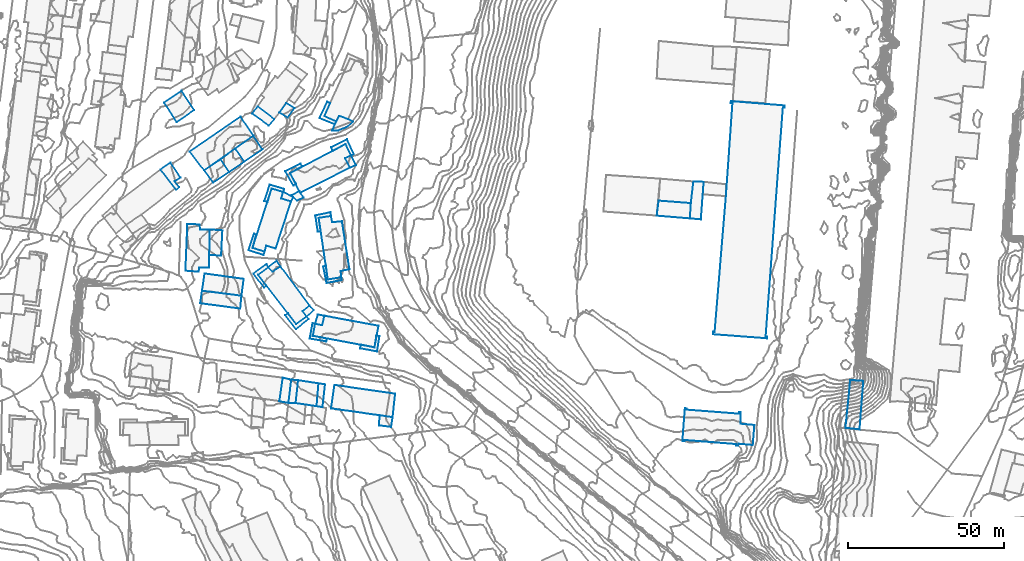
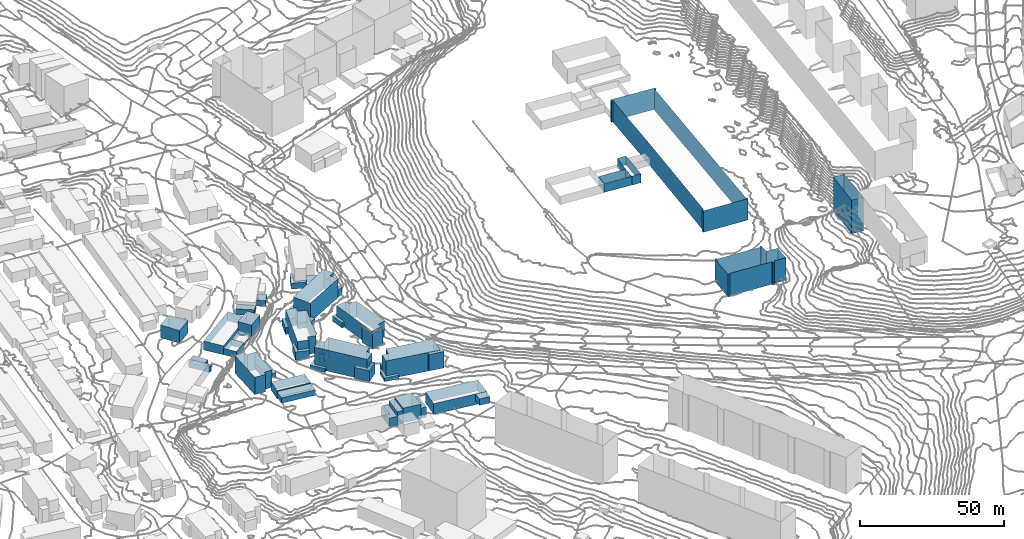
# Not in any storey, part 50 of 419: 46 walls.
"""IFC2X3 model written with IfcOpenShell, lengths in metres."""

from ifc_helpers import new_model, si_unit, frame, origin_with_axes, place, context, subcontext, project, faceted_brep, element, save


model = new_model("IFC2X3")

# Units and contexts
model_context = context("Model", 3, precision=1e-05, world=origin_with_axes())
body_context = subcontext(model_context, "Body", "Model", "MODEL_VIEW")
ifc_project = project(units=[si_unit("AREAUNIT", "SQUARE_METRE"), si_unit("LENGTHUNIT", "METRE")], contexts=[model_context])

# Walls
wall_1_placement = place(None, frame((585.6920204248, 669.3976909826, 49.8970001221), z_axis=(0.0, 0.0, 1.0), x_axis=(1.0, 0.0, 0.0)))
element("IfcWall", 1, at=wall_1_placement, Name="Mur 0", context=body_context, shape_type="Brep", body=[
    faceted_brep([(0.6, 4.0, 2.3029998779), (13.2000000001, 2.4000000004, 2.3029998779), (0.6, 4.0, 0.0), (13.2000000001, 2.4000000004, 0.0), (0.0, 0.0, 2.3029998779), (0.0, 0.0, 0.0), (12.8, -1.7000000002, 2.3029998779), (12.8, -1.7000000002, 0.0)], [[[0, 1, 2]], [[2, 1, 3]], [[4, 0, 5]], [[5, 0, 2]], [[1, 6, 3]], [[3, 6, 7]], [[6, 4, 7]], [[7, 4, 5]]]),
])
wall_2_placement = place(None, frame((613.8920204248, 637.4976909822, 50.0967005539), z_axis=(0.0, 0.0, 1.0), x_axis=(1.0, 0.0, 0.0)))
element("IfcWall", 2, at=wall_2_placement, Name="Mur 0", context=body_context, shape_type="Brep", body=[
    faceted_brep([(0.8999999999, 7.5, 5.6032994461), (3.1, 7.3000000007, 5.6032994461), (0.8999999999, 7.5, 0.0), (3.1, 7.3000000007, 0.0), (0.0, 0.0, 5.6032994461), (0.0, 0.0, 0.0), (2.2999999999, 0.0, 5.6032994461), (2.2999999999, 0.0, 0.0)], [[[0, 1, 2]], [[2, 1, 3]], [[4, 0, 5]], [[5, 0, 2]], [[1, 6, 3]], [[3, 6, 7]], [[6, 4, 7]], [[7, 4, 5]]]),
])
wall_3_placement = place(None, frame((614.4920204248, 710.9976909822, 51.7713991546), z_axis=(0.0, 0.0, 1.0), x_axis=(1.0, 0.0, 0.0)))
element("IfcWall", 3, at=wall_3_placement, Name="Mur 0", context=body_context, shape_type="Brep", body=[
    faceted_brep([(17.5, 4.8000000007, 8.0286008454), (19.1, 1.8000000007, 8.0286008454), (17.5, 4.8000000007, 0.0), (19.1, 1.8000000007, 0.0), (19.4, 5.7000000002, 8.0286008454), (19.4, 5.7000000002, 0.0), (17.7, 9.3000000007, 8.0286008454), (17.7, 9.3000000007, 0.0), (0.0, 0.0, 8.0286008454), (0.0, 0.0, 0.0), (3.2, -6.2999999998, 8.0286008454), (3.2, -6.2999999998, 0.0)], [[[0, 1, 2]], [[2, 1, 3]], [[4, 0, 5]], [[5, 0, 2]], [[6, 4, 7]], [[7, 4, 5]], [[8, 6, 9]], [[9, 6, 7]], [[1, 10, 3]], [[3, 10, 11]], [[10, 8, 11]], [[11, 8, 9]]]),
])
wall_4_placement = place(None, frame((739.7920204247, 625.3976909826, 67.8319976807), z_axis=(0.0, 0.0, 1.0), x_axis=(1.0, 0.0, 0.0)))
element("IfcWall", 4, at=wall_4_placement, Name="Mur 0", context=body_context, shape_type="Brep", body=[
    faceted_brep([(18.6000000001, 9.2000000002, 9.5680023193), (18.6000000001, 8.4000000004, 9.5680023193), (18.6000000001, 9.2000000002, 0.0), (18.6000000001, 8.4000000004, 0.0), (18.1000000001, 9.2000000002, 9.5680023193), (18.1000000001, 9.2000000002, 0.0), (18.1000000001, 8.7000000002, 9.5680023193), (18.1000000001, 8.7000000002, 0.0), (1.4, 10.0, 9.5680023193), (1.4, 10.0, 0.0), (1.4, 10.4000000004, 9.5680023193), (1.4, 10.4000000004, 0.0), (0.8, 10.5, 9.5680023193), (0.8, 10.5, 0.0), (0.0, 0.0, 9.5680023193), (0.0, 0.0, 0.0), (0.7000000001, -0.0999999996, 9.5680023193), (0.7000000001, -0.0999999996, 0.0), (0.7000000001, 0.2999999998, 9.5680023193), (0.7000000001, 0.2999999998, 0.0), (17.2000000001, -1.0, 9.5680023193), (17.2000000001, -1.0, 0.0), (17.2000000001, -1.5, 9.5680023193), (17.2000000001, -1.5, 0.0), (17.8, -1.5, 9.5680023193), (17.8, -1.5, 0.0), (18.0, -0.9000000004, 9.5680023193), (18.0, -0.9000000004, 0.0), (22.5, -1.2999999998, 9.5680023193), (22.5, -1.2999999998, 0.0), (23.0, 5.0999999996, 9.5680023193), (23.0, 5.0999999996, 0.0), (18.6000000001, 5.5, 9.5680023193), (18.6000000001, 5.5, 0.0)], [[[0, 1, 2]], [[2, 1, 3]], [[4, 0, 5]], [[5, 0, 2]], [[6, 4, 7]], [[7, 4, 5]], [[8, 6, 9]], [[9, 6, 7]], [[10, 8, 11]], [[11, 8, 9]], [[12, 10, 13]], [[13, 10, 11]], [[14, 12, 15]], [[15, 12, 13]], [[16, 14, 17]], [[17, 14, 15]], [[18, 16, 19]], [[19, 16, 17]], [[20, 18, 21]], [[21, 18, 19]], [[22, 20, 23]], [[23, 20, 21]], [[24, 22, 25]], [[25, 22, 23]], [[26, 24, 27]], [[27, 24, 25]], [[28, 26, 29]], [[29, 26, 27]], [[30, 28, 31]], [[31, 28, 29]], [[1, 32, 3]], [[3, 32, 33]], [[32, 30, 33]], [[33, 30, 31]]]),
])
wall_5_placement = place(None, frame((602.3920204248, 687.0976909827, 52.1847999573), z_axis=(0.0, 0.0, 1.0), x_axis=(1.0, 0.0, 0.0)))
element("IfcWall", 5, at=wall_5_placement, Name="Mur 0", context=body_context, shape_type="Brep", body=[
    faceted_brep([(9.2, 15.7999999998, 7.4152000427), (12.2999999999, 14.7999999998, 7.4152000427), (9.2, 15.7999999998, 0.0), (12.2999999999, 14.7999999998, 0.0), (9.7999999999, 17.8999999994, 7.4152000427), (9.7999999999, 17.8999999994, 0.0), (6.1, 18.8999999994, 7.4152000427), (6.1, 18.8999999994, 0.0), (0.0, 0.0, 7.4152000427), (0.0, 0.0, 0.0), (3.8999999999, -1.2000000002, 7.4152000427), (3.8999999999, -1.2000000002, 0.0), (4.3999999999, 0.7000000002, 7.4152000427), (4.3999999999, 0.7000000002, 0.0), (7.3999999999, -0.2000000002, 7.4152000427), (7.3999999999, -0.2000000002, 0.0)], [[[0, 1, 2]], [[2, 1, 3]], [[4, 0, 5]], [[5, 0, 2]], [[6, 4, 7]], [[7, 4, 5]], [[8, 6, 9]], [[9, 6, 7]], [[10, 8, 11]], [[11, 8, 9]], [[12, 10, 13]], [[13, 10, 11]], [[1, 14, 3]], [[3, 14, 15]], [[14, 12, 15]], [[15, 12, 13]]]),
])
wall_6_placement = place(None, frame((574.1920204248, 733.5976909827, 42.8875996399), z_axis=(0.0, 0.0, 1.0), x_axis=(1.0, 0.0, 0.0)))
element("IfcWall", 6, at=wall_6_placement, Name="Mur 0", context=body_context, shape_type="Brep", body=[
    faceted_brep([(4.0, -6.2999999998, 5.4124003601), (0.0, 0.0, 5.4124003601), (4.0, -6.2999999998, 0.0), (0.0, 0.0, 0.0), (9.6, -2.4000000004, 5.4124003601), (9.6, -2.4000000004, 0.0), (5.5, 3.7000000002, 5.4124003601), (5.5, 3.7000000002, 0.0)], [[[0, 1, 2]], [[2, 1, 3]], [[4, 0, 5]], [[5, 0, 2]], [[1, 6, 3]], [[3, 6, 7]], [[6, 4, 7]], [[7, 4, 5]]]),
])
wall_7_placement = place(None, frame((742.1920204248, 696.4976909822, 71.3740007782), z_axis=(0.0, 0.0, 1.0), x_axis=(1.0, 0.0, 0.0)))
element("IfcWall", 7, at=wall_7_placement, Name="Mur 0", context=body_context, shape_type="Brep", body=[
    faceted_brep([(0.0, 0.0, 3.8259992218), (0.3, 4.9000000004, 3.8259992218), (0.0, 0.0, 0.0), (0.3, 4.9000000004, 0.0), (3.5, -0.2999999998, 3.8259992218), (3.5, -0.2999999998, 0.0), (4.4, 11.7000000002, 3.8259992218), (4.4, 11.7000000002, 0.0), (1.1, 11.8000000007, 3.8259992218), (1.1, 11.8000000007, 0.0)], [[[0, 1, 2]], [[2, 1, 3]], [[4, 0, 5]], [[5, 0, 2]], [[6, 4, 7]], [[7, 4, 5]], [[1, 8, 3]], [[3, 8, 9]], [[8, 6, 9]], [[9, 6, 7]]]),
])
wall_8_placement = place(None, frame((623.7920204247, 728.5976909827, 49.1729995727), z_axis=(0.0, 0.0, 1.0), x_axis=(1.0, 0.0, 0.0)))
element("IfcWall", 8, at=wall_8_placement, Name="Mur 0", context=body_context, shape_type="Brep", body=[
    faceted_brep([(5.3, -1.1000000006, 2.5270004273), (4.8, -2.0, 2.5270004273), (5.3, -1.1000000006, 0.0), (4.8, -2.0, 0.0), (1.6000000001, 0.5999999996, 2.5270004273), (1.6000000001, 0.5999999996, 0.0), (3.4, 4.7999999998, 2.5270004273), (3.4, 4.7999999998, 0.0), (2.5, 5.2000000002, 2.5270004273), (2.5, 5.2000000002, 0.0), (0.0, 0.0, 2.5270004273), (0.0, 0.0, 0.0)], [[[0, 1, 2]], [[2, 1, 3]], [[4, 0, 5]], [[5, 0, 2]], [[6, 4, 7]], [[7, 4, 5]], [[8, 6, 9]], [[9, 6, 7]], [[1, 10, 3]], [[3, 10, 11]], [[10, 8, 11]], [[11, 8, 9]]]),
])
wall_9_placement = place(None, frame((627.7920204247, 724.5976909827, 49.5610002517), z_axis=(0.0, 0.0, 1.0), x_axis=(1.0, 0.0, 0.0)))
element("IfcWall", 9, at=wall_9_placement, Name="Mur 0", context=body_context, shape_type="Brep", body=[
    faceted_brep([(2.3, 4.7000000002, 2.7389997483), (5.2000000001, 3.5999999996, 2.7389997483), (2.3, 4.7000000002, 0.0), (5.2000000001, 3.5999999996, 0.0), (0.0, 0.0, 2.7389997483), (0.0, 0.0, 0.0), (1.9, 0.0, 2.7389997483), (1.9, 0.0, 0.0), (4.7000000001, 1.0999999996, 2.7389997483), (4.7000000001, 1.0999999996, 0.0), (6.7000000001, 2.7999999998, 2.7389997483), (6.7000000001, 2.7999999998, 0.0)], [[[0, 1, 2]], [[2, 1, 3]], [[4, 0, 5]], [[5, 0, 2]], [[6, 4, 7]], [[7, 4, 5]], [[8, 6, 9]], [[9, 6, 7]], [[1, 10, 3]], [[3, 10, 11]], [[10, 8, 11]], [[11, 8, 9]]]),
])
wall_10_placement = place(None, frame((614.8920204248, 703.8976909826, 52.1322005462), z_axis=(0.0, 0.0, 1.0), x_axis=(1.0, 0.0, 0.0)))
element("IfcWall", 10, at=wall_10_placement, Name="Mur 0", context=body_context, shape_type="Brep", body=[
    faceted_brep([(2.6, 1.4000000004, 1.8677994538), (2.7999999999, 0.7999999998, 1.8677994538), (2.6, 1.4000000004, 0.0), (2.7999999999, 0.7999999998, 0.0), (0.0, 0.0, 1.8677994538), (0.0, 0.0, 0.0), (1.7, -1.7000000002, 1.8677994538), (1.7, -1.7000000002, 0.0), (3.8999999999, -0.7000000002, 1.8677994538), (3.8999999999, -0.7000000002, 0.0)], [[[0, 1, 2]], [[2, 1, 3]], [[4, 0, 5]], [[5, 0, 2]], [[6, 4, 7]], [[7, 4, 5]], [[1, 8, 3]], [[3, 8, 9]], [[8, 6, 9]], [[9, 6, 7]]]),
])
wall_11_placement = place(None, frame((622.4920204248, 697.4976909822, 54.8317015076), z_axis=(0.0, 0.0, 1.0), x_axis=(1.0, 0.0, 0.0)))
element("IfcWall", 11, at=wall_11_placement, Name="Mur 0", context=body_context, shape_type="Brep", body=[
    faceted_brep([(4.9, 1.0, 2.3682984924), (5.0, -0.1999999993, 2.3682984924), (4.9, 1.0, 0.0), (5.0, -0.1999999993, 0.0), (0.0, 0.0, 2.3682984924), (0.0, 0.0, 0.0), (0.7999999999, -5.1999999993, 2.3682984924), (0.7999999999, -5.1999999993, 0.0), (1.7, -5.0999999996, 2.3682984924), (1.7, -5.0999999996, 0.0), (1.1, -0.7999999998, 2.3682984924), (1.1, -0.7999999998, 0.0)], [[[0, 1, 2]], [[2, 1, 3]], [[4, 0, 5]], [[5, 0, 2]], [[6, 4, 7]], [[7, 4, 5]], [[8, 6, 9]], [[9, 6, 7]], [[1, 10, 3]], [[3, 10, 11]], [[10, 8, 11]], [[11, 8, 9]]]),
])
wall_12_placement = place(None, frame((618.4920204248, 666.8976909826, 53.4909012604), z_axis=(0.0, 0.0, 1.0), x_axis=(1.0, 0.0, 0.0)))
element("IfcWall", 12, at=wall_12_placement, Name="Mur 0", context=body_context, shape_type="Brep", body=[
    faceted_brep([(0.0, 0.0, 2.5090987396), (2.2, 1.7999999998, 2.5090987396), (0.0, 0.0, 0.0), (2.2, 1.7999999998, 0.0), (1.2, -1.7000000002, 2.5090987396), (1.2, -1.7000000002, 0.0), (3.5, 0.2999999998, 2.5090987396), (3.5, 0.2999999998, 0.0)], [[[0, 1, 2]], [[2, 1, 3]], [[4, 0, 5]], [[5, 0, 2]], [[1, 6, 3]], [[3, 6, 7]], [[6, 4, 7]], [[7, 4, 5]]]),
])
wall_13_placement = place(None, frame((620.6920204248, 658.0976909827, 53.6420013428), z_axis=(0.0, 0.0, 1.0), x_axis=(1.0, 0.0, 0.0)))
element("IfcWall", 13, at=wall_13_placement, Name="Mur 0", context=body_context, shape_type="Brep", body=[
    faceted_brep([(0.9, 4.8999999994, 1.5579986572), (1.7000000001, 4.7000000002, 1.5579986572), (0.9, 4.8999999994, 0.0), (1.7000000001, 4.7000000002, 0.0), (0.0, 0.0, 1.5579986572), (0.0, 0.0, 0.0), (5.3, -0.9000000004, 1.5579986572), (5.3, -0.9000000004, 0.0), (5.5, 0.0, 1.5579986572), (5.5, 0.0, 0.0), (1.0, 0.8999999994, 1.5579986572), (1.0, 0.8999999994, 0.0)], [[[0, 1, 2]], [[2, 1, 3]], [[4, 0, 5]], [[5, 0, 2]], [[6, 4, 7]], [[7, 4, 5]], [[8, 6, 9]], [[9, 6, 7]], [[1, 10, 3]], [[3, 10, 11]], [[10, 8, 11]], [[11, 8, 9]]]),
])
wall_14_placement = place(None, frame((602.6920204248, 678.8976909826, 52.7784986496), z_axis=(0.0, 0.0, 1.0), x_axis=(1.0, 0.0, 0.0)))
element("IfcWall", 14, at=wall_14_placement, Name="Mur 0", context=body_context, shape_type="Brep", body=[
    faceted_brep([(4.2000000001, 3.0999999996, 1.7215013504), (4.8, 2.0999999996, 1.7215013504), (4.2000000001, 3.0999999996, 0.0), (4.8, 2.0999999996, 0.0), (0.0, 0.0, 1.7215013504), (0.0, 0.0, 0.0), (3.5, -4.5, 1.7215013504), (3.5, -4.5, 0.0), (4.1, -3.9000000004, 1.7215013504), (4.1, -3.9000000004, 0.0), (1.5, -0.4000000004, 1.7215013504), (1.5, -0.4000000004, 0.0)], [[[0, 1, 2]], [[2, 1, 3]], [[4, 0, 5]], [[5, 0, 2]], [[6, 4, 7]], [[7, 4, 5]], [[8, 6, 9]], [[9, 6, 7]], [[1, 10, 3]], [[3, 10, 11]], [[10, 8, 11]], [[11, 8, 9]]]),
])
wall_15_placement = place(None, frame((622.8920204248, 636.4976909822, 50.4553011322), z_axis=(0.0, 0.0, 1.0), x_axis=(1.0, 0.0, 0.0)))
element("IfcWall", 15, at=wall_15_placement, Name="Mur 0", context=body_context, shape_type="Brep", body=[
    faceted_brep([(0.0, 0.0, 4.3446988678), (0.6, 7.3000000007, 4.3446988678), (0.0, 0.0, 0.0), (0.6, 7.3000000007, 0.0), (1.8999999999, -0.2999999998, 4.3446988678), (1.8999999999, -0.2999999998, 0.0), (2.7, 7.0, 4.3446988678), (2.7, 7.0, 0.0)], [[[0, 1, 2]], [[2, 1, 3]], [[4, 0, 5]], [[5, 0, 2]], [[1, 6, 3]], [[3, 6, 7]], [[6, 4, 7]], [[7, 4, 5]]]),
])
wall_16_placement = place(None, frame((610.9920204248, 638.0976909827, 50.037399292), z_axis=(0.0, 0.0, 1.0), x_axis=(1.0, 0.0, 0.0)))
element("IfcWall", 16, at=wall_16_placement, Name="Mur 0", context=body_context, shape_type="Brep", body=[
    faceted_brep([(1.1, 7.5, 3.762600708), (3.7999999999, 6.8999999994, 3.762600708), (1.1, 7.5, 0.0), (3.7999999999, 6.8999999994, 0.0), (0.0, 0.0, 3.762600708), (0.0, 0.0, 0.0), (2.9, -0.6000000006, 3.762600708), (2.9, -0.6000000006, 0.0)], [[[0, 1, 2]], [[2, 1, 3]], [[4, 0, 5]], [[5, 0, 2]], [[1, 6, 3]], [[3, 6, 7]], [[6, 4, 7]], [[7, 4, 5]]]),
])
wall_17_placement = place(None, frame((588.5920204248, 684.8976909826, 49.6700000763), z_axis=(0.0, 0.0, 1.0), x_axis=(1.0, 0.0, 0.0)))
element("IfcWall", 17, at=wall_17_placement, Name="Mur 0", context=body_context, shape_type="Brep", body=[
    faceted_brep([(0.0, 0.0, 1.8299999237), (0.2, 8.0999999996, 1.8299999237), (0.0, 0.0, 0.0), (0.2, 8.0999999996, 0.0), (3.8, -0.2999999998, 1.8299999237), (3.8, -0.2999999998, 0.0), (4.2, 7.7999999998, 1.8299999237), (4.2, 7.7999999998, 0.0)], [[[0, 1, 2]], [[2, 1, 3]], [[4, 0, 5]], [[5, 0, 2]], [[1, 6, 3]], [[3, 6, 7]], [[6, 4, 7]], [[7, 4, 5]]]),
])
wall_18_placement = place(None, frame((586.9920204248, 711.8976909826, 44.2959999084), z_axis=(0.0, 0.0, 1.0), x_axis=(1.0, 0.0, 0.0)))
element("IfcWall", 18, at=wall_18_placement, Name="Mur 0", context=body_context, shape_type="Brep", body=[
    faceted_brep([(2.9, -3.9000000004, 2.7040000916), (0.0, 0.0, 2.7040000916), (2.9, -3.9000000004, 0.0), (0.0, 0.0, 0.0), (8.0, -0.5, 2.7040000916), (8.0, -0.5, 0.0), (5.2, 3.5, 2.7040000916), (5.2, 3.5, 0.0)], [[[0, 1, 2]], [[2, 1, 3]], [[4, 0, 5]], [[5, 0, 2]], [[1, 6, 3]], [[3, 6, 7]], [[6, 4, 7]], [[7, 4, 5]]]),
])
wall_19_placement = place(None, frame((604.1920204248, 678.4976909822, 52.8710006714), z_axis=(0.0, 0.0, 1.0), x_axis=(1.0, 0.0, 0.0)))
element("IfcWall", 19, at=wall_19_placement, Name="Mur 0", context=body_context, shape_type="Brep", body=[
    faceted_brep([(4.6, 1.0, 8.9289993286), (7.2000000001, 2.7000000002, 8.9289993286), (4.6, 1.0, 0.0), (7.2000000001, 2.7000000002, 0.0), (3.3, 2.5, 8.9289993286), (3.3, 2.5, 0.0), (0.0, 0.0, 8.9289993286), (0.0, 0.0, 0.0), (12.2000000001, -15.6999999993, 8.9289993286), (12.2000000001, -15.6999999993, 0.0), (15.5, -13.2999999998, 8.9289993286), (15.5, -13.2999999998, 0.0), (14.3, -11.5999999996, 8.9289993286), (14.3, -11.5999999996, 0.0), (16.5, -9.7999999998, 8.9289993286), (16.5, -9.7999999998, 0.0)], [[[0, 1, 2]], [[2, 1, 3]], [[4, 0, 5]], [[5, 0, 2]], [[6, 4, 7]], [[7, 4, 5]], [[8, 6, 9]], [[9, 6, 7]], [[10, 8, 11]], [[11, 8, 9]], [[12, 10, 13]], [[13, 10, 11]], [[1, 14, 3]], [[3, 14, 15]], [[14, 12, 15]], [[15, 12, 13]]]),
])
wall_20_placement = place(None, frame((631.9920204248, 715.7976909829, 51.9300001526), z_axis=(0.0, 0.0, 1.0), x_axis=(1.0, 0.0, 0.0)))
element("IfcWall", 20, at=wall_20_placement, Name="Mur 0", context=body_context, shape_type="Brep", body=[
    faceted_brep([(3.5, -2.2000000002, 3.0699998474), (1.6, -3.0, 3.0699998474), (3.5, -2.2000000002, 0.0), (1.6, -3.0, 0.0), (1.9, 0.8999999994, 3.0699998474), (1.9, 0.8999999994, 0.0), (0.0, 0.0, 3.0699998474), (0.0, 0.0, 0.0)], [[[0, 1, 2]], [[2, 1, 3]], [[4, 0, 5]], [[5, 0, 2]], [[1, 6, 3]], [[3, 6, 7]], [[6, 4, 7]], [[7, 4, 5]]]),
])
wall_21_placement = place(None, frame((612.8920204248, 711.5976909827, 51.8900004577), z_axis=(0.0, 0.0, 1.0), x_axis=(1.0, 0.0, 0.0)))
element("IfcWall", 21, at=wall_21_placement, Name="Mur 0", context=body_context, shape_type="Brep", body=[
    faceted_brep([(1.6, -0.6000000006, 2.8099995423), (3.3999999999, -4.0, 2.8099995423), (1.6, -0.6000000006, 0.0), (3.3999999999, -4.0, 0.0), (5.2999999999, 1.5999999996, 2.8099995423), (5.2999999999, 1.5999999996, 0.0), (4.8999999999, 2.5, 2.8099995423), (4.8999999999, 2.5, 0.0), (0.0, 0.0, 2.8099995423), (0.0, 0.0, 0.0), (2.6, -4.6000000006, 2.8099995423), (2.6, -4.6000000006, 0.0)], [[[0, 1, 2]], [[2, 1, 3]], [[4, 0, 5]], [[5, 0, 2]], [[6, 4, 7]], [[7, 4, 5]], [[8, 6, 9]], [[9, 6, 7]], [[1, 10, 3]], [[3, 10, 11]], [[10, 8, 11]], [[11, 8, 9]]]),
])
wall_22_placement = place(None, frame((602.2920204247, 729.9976909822, 45.0800004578), z_axis=(0.0, 0.0, 1.0), x_axis=(1.0, 0.0, 0.0)))
element("IfcWall", 22, at=wall_22_placement, Name="Mur 0", context=body_context, shape_type="Brep", body=[
    faceted_brep([(1.7000000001, 2.3000000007, 2.4199995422), (7.1000000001, -1.7999999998, 2.4199995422), (1.7000000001, 2.3000000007, 0.0), (7.1000000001, -1.7999999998, 0.0), (0.0, 0.0, 2.4199995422), (0.0, 0.0, 0.0), (5.3, -3.7999999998, 2.4199995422), (5.3, -3.7999999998, 0.0)], [[[0, 1, 2]], [[2, 1, 3]], [[4, 0, 5]], [[5, 0, 2]], [[1, 6, 3]], [[3, 6, 7]], [[6, 4, 7]], [[7, 4, 5]]]),
])
wall_23_placement = place(None, frame((610.9920204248, 730.3976909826, 45.3399993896), z_axis=(0.0, 0.0, 1.0), x_axis=(1.0, 0.0, 0.0)))
element("IfcWall", 23, at=wall_23_placement, Name="Mur 0", context=body_context, shape_type="Brep", body=[
    faceted_brep([(2.6, -1.7000000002, 2.5600006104), (0.0, 0.0, 2.5600006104), (2.6, -1.7000000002, 0.0), (0.0, 0.0, 0.0), (4.7999999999, 1.2999999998, 2.5600006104), (4.7999999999, 1.2999999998, 0.0), (2.2, 3.0, 2.5600006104), (2.2, 3.0, 0.0)], [[[0, 1, 2]], [[2, 1, 3]], [[4, 0, 5]], [[5, 0, 2]], [[1, 6, 3]], [[3, 6, 7]], [[6, 4, 7]], [[7, 4, 5]]]),
])
wall_24_placement = place(None, frame((607.4920204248, 680.9976909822, 52.9106004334), z_axis=(0.0, 0.0, 1.0), x_axis=(1.0, 0.0, 0.0)))
element("IfcWall", 24, at=wall_24_placement, Name="Mur 0", context=body_context, shape_type="Brep", body=[
    faceted_brep([(2.6, 2.0, 3.5893995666), (3.9, 0.2000000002, 3.5893995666), (2.6, 2.0, 0.0), (3.9, 0.2000000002, 0.0), (0.0, 0.0, 3.5893995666), (0.0, 0.0, 0.0), (1.2999999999, -1.5, 3.5893995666), (1.2999999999, -1.5, 0.0)], [[[0, 1, 2]], [[2, 1, 3]], [[4, 0, 5]], [[5, 0, 2]], [[1, 6, 3]], [[3, 6, 7]], [[6, 4, 7]], [[7, 4, 5]]]),
])
wall_25_placement = place(None, frame((642.7920204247, 630.3976909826, 52.6359992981), z_axis=(0.0, 0.0, 1.0), x_axis=(1.0, 0.0, 0.0)))
element("IfcWall", 25, at=wall_25_placement, Name="Mur 0", context=body_context, shape_type="Brep", body=[
    faceted_brep([(0.0, 0.0, 2.7640007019), (0.3, 3.2000000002, 2.7640007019), (0.0, 0.0, 0.0), (0.3, 3.2000000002, 0.0), (3.9, -0.5, 2.7640007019), (3.9, -0.5, 0.0), (4.4, 2.5999999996, 2.7640007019), (4.4, 2.5999999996, 0.0)], [[[0, 1, 2]], [[2, 1, 3]], [[4, 0, 5]], [[5, 0, 2]], [[1, 6, 3]], [[3, 6, 7]], [[6, 4, 7]], [[7, 4, 5]]]),
])
wall_26_placement = place(None, frame((611.5920204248, 702.8976909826, 52.1847999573), z_axis=(0.0, 0.0, 1.0), x_axis=(1.0, 0.0, 0.0)))
element("IfcWall", 26, at=wall_26_placement, Name="Mur 0", context=body_context, shape_type="Brep", body=[
    faceted_brep([(0.0, 0.0, 2.3152000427), (0.6, 2.0999999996, 2.3152000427), (0.0, 0.0, 0.0), (0.6, 2.0999999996, 0.0), (3.1, -1.0, 2.3152000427), (3.1, -1.0, 0.0), (3.8, 0.4000000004, 2.3152000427), (3.8, 0.4000000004, 0.0)], [[[0, 1, 2]], [[2, 1, 3]], [[4, 0, 5]], [[5, 0, 2]], [[1, 6, 3]], [[3, 6, 7]], [[6, 4, 7]], [[7, 4, 5]]]),
])
wall_27_placement = place(None, frame((612.8920204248, 665.5976909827, 53.2759997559), z_axis=(0.0, 0.0, 1.0), x_axis=(1.0, 0.0, 0.0)))
element("IfcWall", 27, at=wall_27_placement, Name="Mur 0", context=body_context, shape_type="Brep", body=[
    faceted_brep([(3.5, -2.7999999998, 4.7240002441), (6.7999999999, -0.4000000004, 4.7240002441), (3.5, -2.7999999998, 0.0), (6.7999999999, -0.4000000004, 0.0), (0.8999999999, 0.5999999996, 4.7240002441), (0.8999999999, 0.5999999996, 0.0), (0.0, 0.0, 4.7240002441), (0.0, 0.0, 0.0), (3.3999999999, -4.4000000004, 4.7240002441), (3.3999999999, -4.4000000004, 0.0), (7.5, -1.2000000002, 4.7240002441), (7.5, -1.2000000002, 0.0)], [[[0, 1, 2]], [[2, 1, 3]], [[4, 0, 5]], [[5, 0, 2]], [[6, 4, 7]], [[7, 4, 5]], [[8, 6, 9]], [[9, 6, 7]], [[1, 10, 3]], [[3, 10, 11]], [[10, 8, 11]], [[11, 8, 9]]]),
])
wall_28_placement = place(None, frame((627.5920204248, 719.2976909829, 51.6060012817), z_axis=(0.0, 0.0, 1.0), x_axis=(1.0, 0.0, 0.0)))
element("IfcWall", 28, at=wall_28_placement, Name="Mur 0", context=body_context, shape_type="Brep", body=[
    faceted_brep([(7.2, -2.2000000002, 4.3939987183), (6.3, -2.6000000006, 4.3939987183), (7.2, -2.2000000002, 0.0), (6.3, -2.6000000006, 0.0), (5.0, 2.5, 4.3939987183), (5.0, 2.5, 0.0), (0.0, 0.0, 4.3939987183), (0.0, 0.0, 0.0), (0.4, -1.2000000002, 4.3939987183), (0.4, -1.2000000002, 0.0), (4.6, 1.0, 4.3939987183), (4.6, 1.0, 0.0)], [[[0, 1, 2]], [[2, 1, 3]], [[4, 0, 5]], [[5, 0, 2]], [[6, 4, 7]], [[7, 4, 5]], [[8, 6, 9]], [[9, 6, 7]], [[1, 10, 3]], [[3, 10, 11]], [[10, 8, 11]], [[11, 8, 9]]]),
])
wall_29_placement = place(None, frame((636.7920204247, 654.9976909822, 54.5095999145), z_axis=(0.0, 0.0, 1.0), x_axis=(1.0, 0.0, 0.0)))
element("IfcWall", 29, at=wall_29_placement, Name="Mur 0", context=body_context, shape_type="Brep", body=[
    faceted_brep([(4.6000000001, 0.3000000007, 6.9904000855), (5.2000000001, 4.1000000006, 6.9904000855), (4.6000000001, 0.3000000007, 0.0), (5.2000000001, 4.1000000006, 0.0), (0.2000000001, 1.2000000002, 6.9904000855), (0.2000000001, 1.2000000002, 0.0), (0.0, 0.0, 6.9904000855), (0.0, 0.0, 0.0), (5.4, -1.0, 6.9904000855), (5.4, -1.0, 0.0), (6.2000000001, 3.9000000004, 6.9904000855), (6.2000000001, 3.9000000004, 0.0)], [[[0, 1, 2]], [[2, 1, 3]], [[4, 0, 5]], [[5, 0, 2]], [[6, 4, 7]], [[7, 4, 5]], [[8, 6, 9]], [[9, 6, 7]], [[1, 10, 3]], [[3, 10, 11]], [[10, 8, 11]], [[11, 8, 9]]]),
])
wall_30_placement = place(None, frame((624.9920204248, 681.1976909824, 54.9600000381), z_axis=(0.0, 0.0, 1.0), x_axis=(1.0, 0.0, 0.0)))
element("IfcWall", 30, at=wall_30_placement, Name="Mur 0", context=body_context, shape_type="Brep", body=[
    faceted_brep([(1.5, -4.2000000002, 6.3399999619), (5.7999999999, -3.5, 6.3399999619), (1.5, -4.2000000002, 0.0), (5.7999999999, -3.5, 0.0), (0.9, 0.2000000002, 6.3399999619), (0.9, 0.2000000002, 0.0), (0.0, 0.0, 6.3399999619), (0.0, 0.0, 0.0), (1.1, -5.2999999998, 6.3399999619), (1.1, -5.2999999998, 0.0), (5.9, -4.3999999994, 6.3399999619), (5.9, -4.3999999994, 0.0)], [[[0, 1, 2]], [[2, 1, 3]], [[4, 0, 5]], [[5, 0, 2]], [[6, 4, 7]], [[7, 4, 5]], [[8, 6, 9]], [[9, 6, 7]], [[1, 10, 3]], [[3, 10, 11]], [[10, 8, 11]], [[11, 8, 9]]]),
])
wall_31_placement = place(None, frame((596.8920204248, 718.8976909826, 45.3800012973), z_axis=(0.0, 0.0, 1.0), x_axis=(1.0, 0.0, 0.0)))
element("IfcWall", 31, at=wall_31_placement, Name="Mur 0", context=body_context, shape_type="Brep", body=[
    faceted_brep([(0.0, 0.0, 5.3199987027), (5.7999999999, 4.0999999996, 5.3199987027), (0.0, 0.0, 0.0), (5.7999999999, 4.0999999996, 0.0), (2.8999999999, -4.2000000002, 5.3199987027), (2.8999999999, -4.2000000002, 0.0), (8.7, -0.2999999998, 5.3199987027), (8.7, -0.2999999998, 0.0)], [[[0, 1, 2]], [[2, 1, 3]], [[4, 0, 5]], [[5, 0, 2]], [[1, 6, 3]], [[3, 6, 7]], [[6, 4, 7]], [[7, 4, 5]]]),
])
wall_32_placement = place(None, frame((592.1920204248, 715.3976909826, 45.7799995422), z_axis=(0.0, 0.0, 1.0), x_axis=(1.0, 0.0, 0.0)))
element("IfcWall", 32, at=wall_32_placement, Name="Mur 0", context=body_context, shape_type="Brep", body=[
    faceted_brep([(7.6, -0.7000000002, 1.0200004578), (2.8, -4.0, 1.0200004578), (7.6, -0.7000000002, 0.0), (2.8, -4.0, 0.0), (4.7000000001, 3.5, 1.0200004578), (4.7000000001, 3.5, 0.0), (0.0, 0.0, 1.0200004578), (0.0, 0.0, 0.0)], [[[0, 1, 2]], [[2, 1, 3]], [[4, 0, 5]], [[5, 0, 2]], [[1, 6, 3]], [[3, 6, 7]], [[6, 4, 7]], [[7, 4, 5]]]),
])
wall_33_placement = place(None, frame((791.8920204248, 629.5976909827, 73.85), z_axis=(0.0, 0.0, 1.0), x_axis=(1.0, 0.0, 0.0)))
element("IfcWall", 33, at=wall_33_placement, Name="Mur 0", context=body_context, shape_type="Brep", body=[
    faceted_brep([(0.0, 0.0, 14.35), (1.2999999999, 12.8999999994, 14.35), (0.0, 0.0, 0.0), (1.2999999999, 12.8999999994, 0.0), (4.5, -0.5, 14.35), (4.5, -0.5, 0.0), (5.7, 15.0, 14.35), (5.7, 15.0, 0.0), (1.5, 15.2999999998, 14.35), (1.5, 15.2999999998, 0.0)], [[[0, 1, 2]], [[2, 1, 3]], [[4, 0, 5]], [[5, 0, 2]], [[6, 4, 7]], [[7, 4, 5]], [[1, 8, 3]], [[3, 8, 9]], [[8, 6, 9]], [[9, 6, 7]]]),
])
wall_34_placement = place(None, frame((749.5920204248, 659.4976909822, 71.1811993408), z_axis=(0.0, 0.0, 1.0), x_axis=(1.0, 0.0, 0.0)))
element("IfcWall", 34, at=wall_34_placement, Name="Mur 0", context=body_context, shape_type="Brep", body=[
    faceted_brep([(0.5, 0.7000000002, 9.1188006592), (4.1, 44.1000000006, 9.1188006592), (0.5, 0.7000000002, 0.0), (4.1, 44.1000000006, 0.0), (0.0, 0.8000000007, 9.1188006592), (0.0, 0.8000000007, 0.0), (0.0, 0.0, 9.1188006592), (0.0, 0.0, 0.0), (17.2, -1.2999999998, 9.1188006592), (17.2, -1.2999999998, 0.0), (17.3, -0.6999999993, 9.1188006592), (17.3, -0.6999999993, 0.0), (16.8, -0.6999999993, 9.1188006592), (16.8, -0.6999999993, 0.0), (22.3, 72.5, 9.1188006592), (22.3, 72.5, 0.0), (22.8, 72.5, 9.1188006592), (22.8, 72.5, 0.0), (22.8, 73.1000000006, 9.1188006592), (22.8, 73.1000000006, 0.0), (5.7, 74.5, 9.1188006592), (5.7, 74.5, 0.0), (5.6, 73.8000000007, 9.1188006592), (5.6, 73.8000000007, 0.0), (6.2, 73.8000000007, 9.1188006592), (6.2, 73.8000000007, 0.0)], [[[0, 1, 2]], [[2, 1, 3]], [[4, 0, 5]], [[5, 0, 2]], [[6, 4, 7]], [[7, 4, 5]], [[8, 6, 9]], [[9, 6, 7]], [[10, 8, 11]], [[11, 8, 9]], [[12, 10, 13]], [[13, 10, 11]], [[14, 12, 15]], [[15, 12, 13]], [[16, 14, 17]], [[17, 14, 15]], [[18, 16, 19]], [[19, 16, 17]], [[20, 18, 21]], [[21, 18, 19]], [[22, 20, 23]], [[23, 20, 21]], [[1, 24, 3]], [[3, 24, 25]], [[24, 22, 25]], [[25, 22, 23]]]),
])
wall_35_placement = place(None, frame((601.0920204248, 686.3976909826, 52.5969993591), z_axis=(0.0, 0.0, 1.0), x_axis=(1.0, 0.0, 0.0)))
element("IfcWall", 35, at=wall_35_placement, Name="Mur 0", context=body_context, shape_type="Brep", body=[
    faceted_brep([(1.3, 0.7000000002, 3.4030006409), (5.2, -0.5, 3.4030006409), (1.3, 0.7000000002, 0.0), (5.2, -0.5, 0.0), (2.5, 4.9000000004, 3.4030006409), (2.5, 4.9000000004, 0.0), (1.8, 5.2000000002, 3.4030006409), (1.8, 5.2000000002, 0.0), (0.0, 0.0, 3.4030006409), (0.0, 0.0, 0.0), (4.8, -1.5999999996, 3.4030006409), (4.8, -1.5999999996, 0.0)], [[[0, 1, 2]], [[2, 1, 3]], [[4, 0, 5]], [[5, 0, 2]], [[6, 4, 7]], [[7, 4, 5]], [[8, 6, 9]], [[9, 6, 7]], [[1, 10, 3]], [[3, 10, 11]], [[10, 8, 11]], [[11, 8, 9]]]),
])
wall_36_placement = place(None, frame((606.1920204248, 702.0976909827, 52.1450004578), z_axis=(0.0, 0.0, 1.0), x_axis=(1.0, 0.0, 0.0)))
element("IfcWall", 36, at=wall_36_placement, Name="Mur 0", context=body_context, shape_type="Brep", body=[
    faceted_brep([(6.4, 3.7999999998, 3.0549995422), (6.0, 2.8999999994, 3.0549995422), (6.4, 3.7999999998, 0.0), (6.0, 2.8999999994, 0.0), (1.7000000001, 5.2000000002, 3.0549995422), (1.7000000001, 5.2000000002, 0.0), (0.0, 0.0, 3.0549995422), (0.0, 0.0, 0.0), (1.0, -0.2999999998, 3.0549995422), (1.0, -0.2999999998, 0.0), (2.3, 3.8999999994, 3.0549995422), (2.3, 3.8999999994, 0.0)], [[[0, 1, 2]], [[2, 1, 3]], [[4, 0, 5]], [[5, 0, 2]], [[6, 4, 7]], [[7, 4, 5]], [[8, 6, 9]], [[9, 6, 7]], [[1, 10, 3]], [[3, 10, 11]], [[10, 8, 11]], [[11, 8, 9]]]),
])
wall_37_placement = place(None, frame((621.6920204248, 658.9976909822, 53.6719985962), z_axis=(0.0, 0.0, 1.0), x_axis=(1.0, 0.0, 0.0)))
element("IfcWall", 37, at=wall_37_placement, Name="Mur 0", context=body_context, shape_type="Brep", body=[
    faceted_brep([(3.0, 3.4000000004, 7.9280014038), (3.7000000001, 6.4000000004, 7.9280014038), (3.0, 3.4000000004, 0.0), (3.7000000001, 6.4000000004, 0.0), (0.7000000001, 3.8000000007, 7.9280014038), (0.7000000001, 3.8000000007, 0.0), (0.0, 0.0, 7.9280014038), (0.0, 0.0, 0.0), (19.7000000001, -3.6999999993, 7.9280014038), (19.7000000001, -3.6999999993, 0.0), (21.0, 3.2000000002, 7.9280014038), (21.0, 3.2000000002, 0.0)], [[[0, 1, 2]], [[2, 1, 3]], [[4, 0, 5]], [[5, 0, 2]], [[6, 4, 7]], [[7, 4, 5]], [[8, 6, 9]], [[9, 6, 7]], [[1, 10, 3]], [[3, 10, 11]], [[10, 8, 11]], [[11, 8, 9]]]),
])
wall_38_placement = place(None, frame((623.5920204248, 696.6976909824, 54.8609992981), z_axis=(0.0, 0.0, 1.0), x_axis=(1.0, 0.0, 0.0)))
element("IfcWall", 38, at=wall_38_placement, Name="Mur 0", context=body_context, shape_type="Brep", body=[
    faceted_brep([(7.0, -17.0, 6.7390007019), (7.2, -19.0, 6.7390007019), (7.0, -17.0, 0.0), (7.2, -19.0, 0.0), (9.8, -16.3999999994, 6.7390007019), (9.8, -16.3999999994, 0.0), (7.4, -1.0999999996, 6.7390007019), (7.4, -1.0999999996, 0.0), (4.3, -1.3999999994, 6.7390007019), (4.3, -1.3999999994, 0.0), (3.9, 0.6000000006, 6.7390007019), (3.9, 0.6000000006, 0.0), (0.0, 0.0, 6.7390007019), (0.0, 0.0, 0.0), (2.9, -19.7000000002, 6.7390007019), (2.9, -19.7000000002, 0.0)], [[[0, 1, 2]], [[2, 1, 3]], [[4, 0, 5]], [[5, 0, 2]], [[6, 4, 7]], [[7, 4, 5]], [[8, 6, 9]], [[9, 6, 7]], [[10, 8, 11]], [[11, 8, 9]], [[12, 10, 13]], [[13, 10, 11]], [[1, 14, 3]], [[3, 14, 15]], [[14, 12, 15]], [[15, 12, 13]]]),
])
wall_39_placement = place(None, frame((731.5920204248, 697.3976909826, 71.4400024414), z_axis=(0.0, 0.0, 1.0), x_axis=(1.0, 0.0, 0.0)))
element("IfcWall", 39, at=wall_39_placement, Name="Mur 0", context=body_context, shape_type="Brep", body=[
    faceted_brep([(10.9, 4.0, 3.6599975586), (10.6, -0.9000000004, 3.6599975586), (10.9, 4.0, 0.0), (10.6, -0.9000000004, 0.0), (0.6, 4.7999999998, 3.6599975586), (0.6, 4.7999999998, 0.0), (0.0, 0.0, 3.6599975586), (0.0, 0.0, 0.0)], [[[0, 1, 2]], [[2, 1, 3]], [[4, 0, 5]], [[5, 0, 2]], [[1, 6, 3]], [[3, 6, 7]], [[6, 4, 7]], [[7, 4, 5]]]),
])
wall_40_placement = place(None, frame((616.1920204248, 637.4976909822, 50.271000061), z_axis=(0.0, 0.0, 1.0), x_axis=(1.0, 0.0, 0.0)))
element("IfcWall", 40, at=wall_40_placement, Name="Mur 0", context=body_context, shape_type="Brep", body=[
    faceted_brep([(7.3, 6.3000000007, 6.228999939), (6.7000000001, -1.0, 6.228999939), (7.3, 6.3000000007, 0.0), (6.7000000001, -1.0, 0.0), (0.8, 7.3000000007, 6.228999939), (0.8, 7.3000000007, 0.0), (0.0, 0.0, 6.228999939), (0.0, 0.0, 0.0)], [[[0, 1, 2]], [[2, 1, 3]], [[4, 0, 5]], [[5, 0, 2]], [[1, 6, 3]], [[3, 6, 7]], [[6, 4, 7]], [[7, 4, 5]]]),
])
wall_41_placement = place(None, frame((627.4920204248, 635.7976909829, 50.9129999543), z_axis=(0.0, 0.0, 1.0), x_axis=(1.0, 0.0, 0.0)))
element("IfcWall", 41, at=wall_41_placement, Name="Mur 0", context=body_context, shape_type="Brep", body=[
    faceted_brep([(19.7, -2.8000000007, 4.5870000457), (15.6, -2.2000000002, 4.5870000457), (19.7, -2.8000000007, 0.0), (15.6, -2.2000000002, 0.0), (20.5, 4.6999999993, 4.5870000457), (20.5, 4.6999999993, 0.0), (1.1, 7.5, 4.5870000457), (1.1, 7.5, 0.0), (0.0, 0.0, 4.5870000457), (0.0, 0.0, 0.0)], [[[0, 1, 2]], [[2, 1, 3]], [[4, 0, 5]], [[5, 0, 2]], [[6, 4, 7]], [[7, 4, 5]], [[1, 8, 3]], [[3, 8, 9]], [[8, 6, 9]], [[9, 6, 7]]]),
])
wall_42_placement = place(None, frame((582.3920204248, 717.8976909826, 44.2890007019), z_axis=(0.0, 0.0, 1.0), x_axis=(1.0, 0.0, 0.0)))
element("IfcWall", 42, at=wall_42_placement, Name="Mur 0", context=body_context, shape_type="Brep", body=[
    faceted_brep([(20.2999999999, 5.0999999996, 3.8109992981), (4.6, -6.0, 3.8109992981), (20.2999999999, 5.0999999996, 0.0), (4.6, -6.0, 0.0), (16.2, 11.2000000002, 3.8109992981), (16.2, 11.2000000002, 0.0), (0.0, 0.0, 3.8109992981), (0.0, 0.0, 0.0)], [[[0, 1, 2]], [[2, 1, 3]], [[4, 0, 5]], [[5, 0, 2]], [[1, 6, 3]], [[3, 6, 7]], [[6, 4, 7]], [[7, 4, 5]]]),
])
wall_43_placement = place(None, frame((586.2920204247, 673.3976909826, 49.1324996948), z_axis=(0.0, 0.0, 1.0), x_axis=(1.0, 0.0, 0.0)))
element("IfcWall", 43, at=wall_43_placement, Name="Mur 0", context=body_context, shape_type="Brep", body=[
    faceted_brep([(13.3, 3.7999999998, 3.5675003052), (12.6000000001, -1.5999999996, 3.5675003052), (13.3, 3.7999999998, 0.0), (12.6000000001, -1.5999999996, 0.0), (0.8, 5.5, 3.5675003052), (0.8, 5.5, 0.0), (0.0, 0.0, 3.5675003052), (0.0, 0.0, 0.0)], [[[0, 1, 2]], [[2, 1, 3]], [[4, 0, 5]], [[5, 0, 2]], [[1, 6, 3]], [[3, 6, 7]], [[6, 4, 7]], [[7, 4, 5]]]),
])
wall_44_placement = place(None, frame((572.9920204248, 712.1976909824, 43.6959999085), z_axis=(0.0, 0.0, 1.0), x_axis=(1.0, 0.0, 0.0)))
element("IfcWall", 44, at=wall_44_placement, Name="Mur 0", context=body_context, shape_type="Brep", body=[
    faceted_brep([(5.0, -6.5, 2.6040000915), (0.0, 0.0, 2.6040000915), (5.0, -6.5, 0.0), (0.0, 0.0, 0.0), (6.0, -5.7000000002, 2.6040000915), (6.0, -5.7000000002, 0.0), (4.5, -3.7999999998, 2.6040000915), (4.5, -3.7999999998, 0.0), (6.4, -2.5999999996, 2.6040000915), (6.4, -2.5999999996, 0.0), (3.2, 2.2000000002, 2.6040000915), (3.2, 2.2000000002, 0.0)], [[[0, 1, 2]], [[2, 1, 3]], [[4, 0, 5]], [[5, 0, 2]], [[6, 4, 7]], [[7, 4, 5]], [[8, 6, 9]], [[9, 6, 7]], [[1, 10, 3]], [[3, 10, 11]], [[10, 8, 11]], [[11, 8, 9]]]),
])
wall_45_placement = place(None, frame((580.9920204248, 679.7976909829, 48.8708000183), z_axis=(0.0, 0.0, 1.0), x_axis=(1.0, 0.0, 0.0)))
element("IfcWall", 45, at=wall_45_placement, Name="Mur 0", context=body_context, shape_type="Brep", body=[
    faceted_brep([(4.7, 13.1999999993, 7.4291999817), (7.7999999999, 13.1999999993, 7.4291999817), (4.7, 13.1999999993, 0.0), (7.7999999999, 13.1999999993, 0.0), (4.5, 14.7999999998, 7.4291999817), (4.5, 14.7999999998, 0.0), (0.6, 14.8999999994, 7.4291999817), (0.6, 14.8999999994, 0.0), (0.0, 0.0, 7.4291999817), (0.0, 0.0, 0.0), (4.2, -0.3000000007, 7.4291999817), (4.2, -0.3000000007, 0.0), (4.4, 1.0, 7.4291999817), (4.4, 1.0, 0.0), (7.5, 1.0, 7.4291999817), (7.5, 1.0, 0.0)], [[[0, 1, 2]], [[2, 1, 3]], [[4, 0, 5]], [[5, 0, 2]], [[6, 4, 7]], [[7, 4, 5]], [[8, 6, 9]], [[9, 6, 7]], [[10, 8, 11]], [[11, 8, 9]], [[12, 10, 13]], [[13, 10, 11]], [[1, 14, 3]], [[3, 14, 15]], [[14, 12, 15]], [[15, 12, 13]]]),
])
wall_46_placement = place(None, frame((622.3920204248, 662.7976909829, 53.6707987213), z_axis=(0.0, 0.0, 1.0), x_axis=(1.0, 0.0, 0.0)))
element("IfcWall", 46, at=wall_46_placement, Name="Mur 0", context=body_context, shape_type="Brep", body=[
    faceted_brep([(0.8999999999, 3.0, 2.3292012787), (3.0, 2.5999999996, 2.3292012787), (0.8999999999, 3.0, 0.0), (3.0, 2.5999999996, 0.0), (0.0, 0.0, 2.3292012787), (0.0, 0.0, 0.0), (2.2999999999, -0.4000000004, 2.3292012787), (2.2999999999, -0.4000000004, 0.0)], [[[0, 1, 2]], [[2, 1, 3]], [[4, 0, 5]], [[5, 0, 2]], [[1, 6, 3]], [[3, 6, 7]], [[6, 4, 7]], [[7, 4, 5]]]),
])

save(model, "model.ifc")
